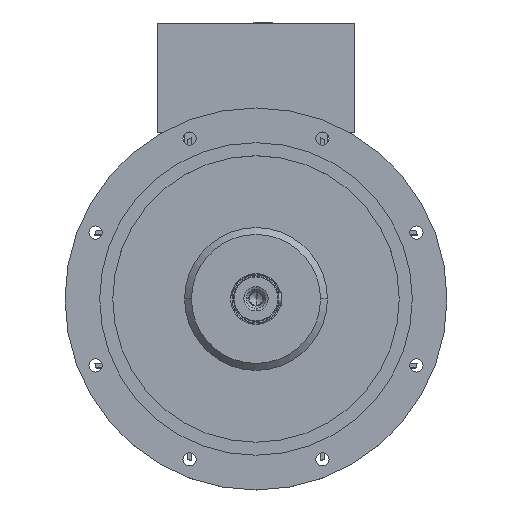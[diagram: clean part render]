
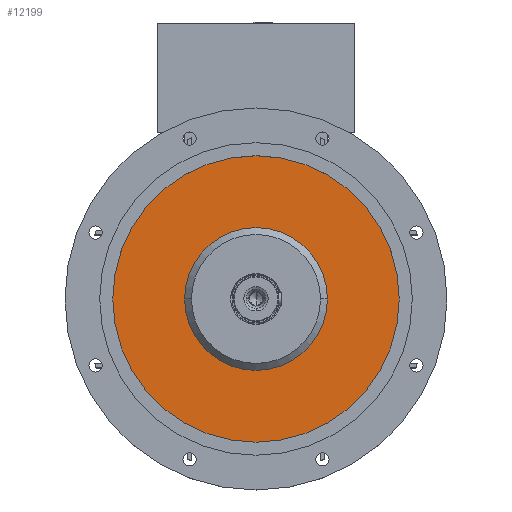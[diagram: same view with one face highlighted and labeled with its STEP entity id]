
A CAD part, top view. The second image highlights one B-rep face of the part: STEP entity #12199.
In plain terms, the highlighted planar face has unit normal (0, 0, 1).
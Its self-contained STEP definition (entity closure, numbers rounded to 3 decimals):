
#233 = CARTESIAN_POINT ( 'NONE',  ( -206.25, 0., 330.5 ) ) ;
#247 = ORIENTED_EDGE ( 'NONE', *, *, #9488, .T. ) ;
#319 = AXIS2_PLACEMENT_3D ( 'NONE', #16340, #8765, #24320 ) ;
#1594 = DIRECTION ( 'NONE',  ( -1., 0., 0. ) ) ;
#1810 = EDGE_LOOP ( 'NONE', ( #247, #17097 ) ) ;
#2039 = EDGE_LOOP ( 'NONE', ( #15838, #19265 ) ) ;
#3411 = CIRCLE ( 'NONE', #13197, 206.25 ) ;
#3448 = DIRECTION ( 'NONE',  ( 0., 0., 1. ) ) ;
#3616 = EDGE_CURVE ( 'NONE', #24833, #7655, #20703, .T. ) ;
#4661 = AXIS2_PLACEMENT_3D ( 'NONE', #14948, #9450, #15031 ) ;
#5165 = CARTESIAN_POINT ( 'NONE',  ( 0., 206.25, 330.5 ) ) ;
#6642 = VERTEX_POINT ( 'NONE', #24052 ) ;
#7545 = AXIS2_PLACEMENT_3D ( 'NONE', #16085, #17701, #21945 ) ;
#7655 = VERTEX_POINT ( 'NONE', #233 ) ;
#8765 = DIRECTION ( 'NONE',  ( 0., 0., -1. ) ) ;
#8784 = CIRCLE ( 'NONE', #4661, 102.8 ) ;
#9450 = DIRECTION ( 'NONE',  ( 0., 0., -1. ) ) ;
#9488 = EDGE_CURVE ( 'NONE', #6642, #11784, #8784, .T. ) ;
#11784 = VERTEX_POINT ( 'NONE', #17030 ) ;
#12199 = ADVANCED_FACE ( 'NONE', ( #17384, #15860 ), #14812, .T. ) ;
#13147 = CARTESIAN_POINT ( 'NONE',  ( 0., 0., 330.5 ) ) ;
#13197 = AXIS2_PLACEMENT_3D ( 'NONE', #13147, #3448, #1594 ) ;
#13293 = EDGE_CURVE ( 'NONE', #7655, #24833, #3411, .T. ) ;
#14812 = PLANE ( 'NONE',  #17728 ) ;
#14948 = CARTESIAN_POINT ( 'NONE',  ( 0., 0., 330.5 ) ) ;
#15031 = DIRECTION ( 'NONE',  ( -1., 0., 0. ) ) ;
#15838 = ORIENTED_EDGE ( 'NONE', *, *, #13293, .T. ) ;
#15860 = FACE_BOUND ( 'NONE', #1810, .T. ) ;
#16085 = CARTESIAN_POINT ( 'NONE',  ( 0., 0., 330.5 ) ) ;
#16340 = CARTESIAN_POINT ( 'NONE',  ( 0., 0., 330.5 ) ) ;
#17030 = CARTESIAN_POINT ( 'NONE',  ( 102.8, 0., 330.5 ) ) ;
#17097 = ORIENTED_EDGE ( 'NONE', *, *, #17924, .T. ) ;
#17384 = FACE_OUTER_BOUND ( 'NONE', #2039, .T. ) ;
#17701 = DIRECTION ( 'NONE',  ( 0., 0., 1. ) ) ;
#17728 = AXIS2_PLACEMENT_3D ( 'NONE', #5165, #18636, #18720 ) ;
#17924 = EDGE_CURVE ( 'NONE', #11784, #6642, #23762, .T. ) ;
#18236 = CARTESIAN_POINT ( 'NONE',  ( 206.25, 0., 330.5 ) ) ;
#18636 = DIRECTION ( 'NONE',  ( 0., 0., 1. ) ) ;
#18720 = DIRECTION ( 'NONE',  ( 1., 0., 0. ) ) ;
#19265 = ORIENTED_EDGE ( 'NONE', *, *, #3616, .T. ) ;
#20703 = CIRCLE ( 'NONE', #7545, 206.25 ) ;
#21945 = DIRECTION ( 'NONE',  ( -1., 0., 0. ) ) ;
#23762 = CIRCLE ( 'NONE', #319, 102.8 ) ;
#24052 = CARTESIAN_POINT ( 'NONE',  ( -102.8, 0., 330.5 ) ) ;
#24320 = DIRECTION ( 'NONE',  ( -1., 0., 0. ) ) ;
#24833 = VERTEX_POINT ( 'NONE', #18236 ) ;
